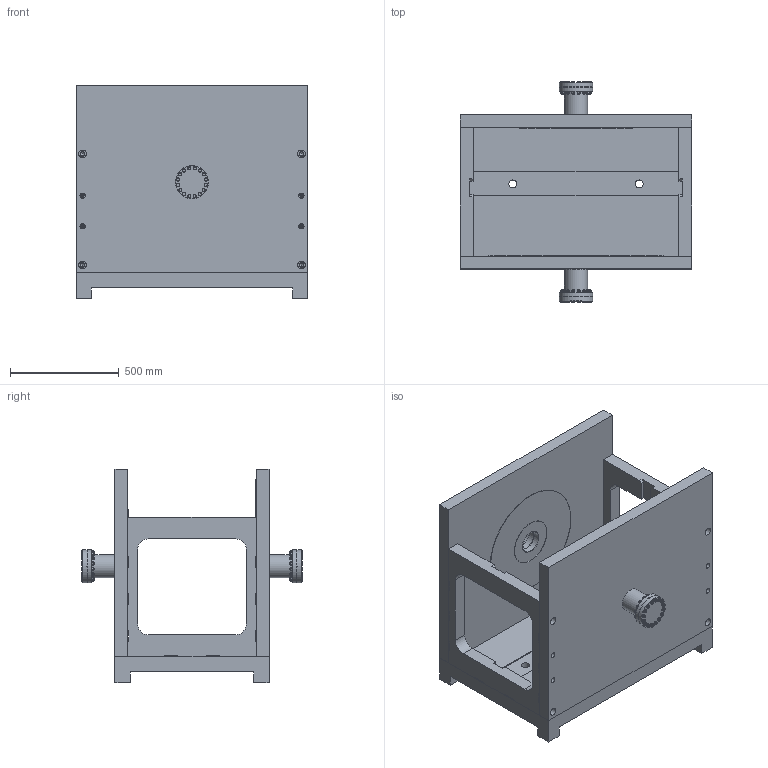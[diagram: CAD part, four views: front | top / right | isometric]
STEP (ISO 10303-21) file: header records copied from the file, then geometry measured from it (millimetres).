
FILE_DESCRIPTION(/* description */ ('整体检漏工装'),/* implementation_level */ '2;1');
FILE_NAME(/* name */ 'D:\work\inventor\缪子线3-4\氦容器5-7\缪子线复合波纹管检漏工装.stp',/* time_stamp */ '2026-09-08T16:47:57+08:00',/* author */ ('Administrator'),/* organization */ (''),/* preprocessor_version */ 'ST-DEVELOPER v18',/* originating_system */ 'Autodesk Inventor 2020',/* authorisation */ '');
FILE_SCHEMA (('AUTOMOTIVE_DESIGN { 1 0 10303 214 3 1 1 }'));
Length unit declared in the file: millimetre
Products named in the file (14): 缪子线复合波纹管检漏工装; 定位盒底板mux; 定位盒前板mux; 定位盒后板mux; 定位盒侧板mux; 定位盒侧板IImux; TSMU-0607-0006; TSMU-0607-0007; TSMU-0607-0009; TSMU-0607-0008; Washer GB/T 97.3-2002 8; 六角螺栓 GB/T 5780 M8 x 55; 螺母 GB/T 6170 M8; TSMU-0607-0010
Assembly tree (142 placements, depth 2):
  缪子线复合波纹管检漏工装
    定位盒底板mux
    定位盒前板mux
    定位盒后板mux
    定位盒侧板mux
    定位盒侧板IImux
    TSMU-0607-0006  x2
    TSMU-0607-0007  x2
    TSMU-0607-0008  x2
    TSMU-0607-0009  x2
    六角螺栓 GB/T 5780 M8 x 55  x32
    Washer GB/T 97.3-2002 8  x64
    螺母 GB/T 6170 M8  x32
    TSMU-0607-0010
Bounding box: 1064 x 1016 x 980 mm (x, y, z)
Volume: 178381098.6 mm3; surface area: 7800850.1 mm2
Topology: 142 solids, 142 shells, 2122 faces, 4875 edges, 3108 vertices
Faces by surface type: plane 895, cone 788, cylinder 401, torus 38
Full cylindrical faces by diameter (mm): 6.647 x32, 8 x96, 8.4 x64, 10.106 x12, 10.8 x1, 12 x1, 13.5 x8, 15 x64, 16 x5, 17.294 x18, 22 x20, 24 x8, 35 x20, 36.6 x2, 100 x8, 106 x8, 120.5 x2, 120.6 x4, 135 x1, 152.4 x4, 210 x1, 520 x1, 800 x1
Entity records: 17837 total; most frequent: DIRECTION 3174, CARTESIAN_POINT 3077, ORIENTED_EDGE 2668, EDGE_CURVE 1334, AXIS2_PLACEMENT_3D 1250, VERTEX_POINT 941, EDGE_LOOP 707, LINE 674
